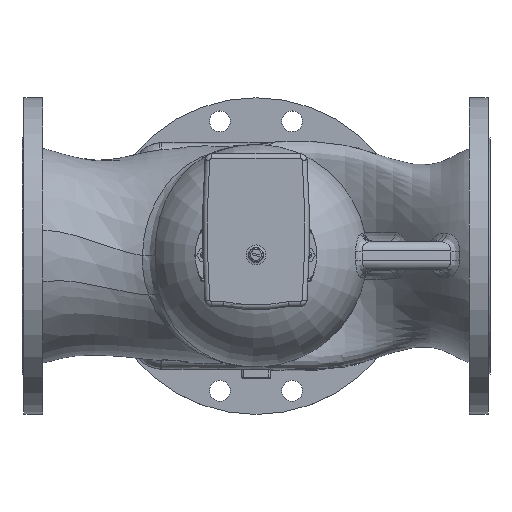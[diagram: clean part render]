
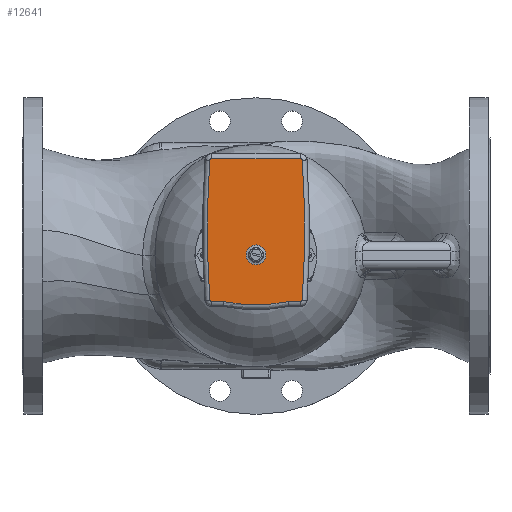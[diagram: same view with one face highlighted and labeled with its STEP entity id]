
A CAD part, top view. The second image highlights one B-rep face of the part: STEP entity #12641.
In plain terms, the highlighted planar face has unit normal (0, 0, 1).
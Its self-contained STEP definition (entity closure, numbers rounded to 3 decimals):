
#501=PLANE('',#17447);
#1121=LINE('',#56515,#1746);
#1122=LINE('',#56519,#1747);
#1123=LINE('',#56527,#1748);
#1746=VECTOR('',#20727,1000.);
#1747=VECTOR('',#20730,1000.);
#1748=VECTOR('',#20737,1000.);
#5915=ORIENTED_EDGE('',*,*,#7744,.T.);
#5916=ORIENTED_EDGE('',*,*,#7745,.T.);
#5917=ORIENTED_EDGE('',*,*,#7746,.T.);
#5918=ORIENTED_EDGE('',*,*,#7747,.T.);
#5919=ORIENTED_EDGE('',*,*,#7748,.T.);
#5920=ORIENTED_EDGE('',*,*,#7749,.T.);
#5921=ORIENTED_EDGE('',*,*,#7750,.T.);
#5922=ORIENTED_EDGE('',*,*,#7751,.T.);
#5923=ORIENTED_EDGE('',*,*,#7752,.T.);
#5924=ORIENTED_EDGE('',*,*,#7753,.T.);
#5925=ORIENTED_EDGE('',*,*,#7754,.T.);
#7744=EDGE_CURVE('',#8934,#8934,#9595,.T.);
#7745=EDGE_CURVE('',#8935,#8936,#9596,.F.);
#7746=EDGE_CURVE('',#8936,#8937,#1121,.F.);
#7747=EDGE_CURVE('',#8937,#8938,#9597,.F.);
#7748=EDGE_CURVE('',#8938,#8939,#1122,.F.);
#7749=EDGE_CURVE('',#8939,#8940,#9598,.F.);
#7750=EDGE_CURVE('',#8940,#8941,#9599,.F.);
#7751=EDGE_CURVE('',#8941,#8942,#9600,.F.);
#7752=EDGE_CURVE('',#8942,#8943,#1123,.F.);
#7753=EDGE_CURVE('',#8943,#8944,#9601,.F.);
#7754=EDGE_CURVE('',#8944,#8935,#9602,.F.);
#8934=VERTEX_POINT('',#56511);
#8935=VERTEX_POINT('',#56513);
#8936=VERTEX_POINT('',#56514);
#8937=VERTEX_POINT('',#56516);
#8938=VERTEX_POINT('',#56518);
#8939=VERTEX_POINT('',#56520);
#8940=VERTEX_POINT('',#56522);
#8941=VERTEX_POINT('',#56524);
#8942=VERTEX_POINT('',#56526);
#8943=VERTEX_POINT('',#56528);
#8944=VERTEX_POINT('',#56530);
#9595=CIRCLE('',#17448,10.521);
#9596=CIRCLE('',#17449,1.964);
#9597=CIRCLE('',#17450,169.964);
#9598=CIRCLE('',#17451,1.964);
#9599=CIRCLE('',#17452,1096.964);
#9600=CIRCLE('',#17453,1.964);
#9601=CIRCLE('',#17454,1.964);
#9602=CIRCLE('',#17455,1096.964);
#10649=EDGE_LOOP('',(#5915));
#10650=EDGE_LOOP('',(#5916,#5917,#5918,#5919,#5920,#5921,#5922,#5923,#5924,
#5925));
#11715=FACE_BOUND('',#10649,.T.);
#11716=FACE_BOUND('',#10650,.T.);
#12641=ADVANCED_FACE('',(#11715,#11716),#501,.F.);
#17447=AXIS2_PLACEMENT_3D('',#56509,#20721,#20722);
#17448=AXIS2_PLACEMENT_3D('',#56510,#20723,#20724);
#17449=AXIS2_PLACEMENT_3D('',#56512,#20725,#20726);
#17450=AXIS2_PLACEMENT_3D('',#56517,#20728,#20729);
#17451=AXIS2_PLACEMENT_3D('',#56521,#20731,#20732);
#17452=AXIS2_PLACEMENT_3D('',#56523,#20733,#20734);
#17453=AXIS2_PLACEMENT_3D('',#56525,#20735,#20736);
#17454=AXIS2_PLACEMENT_3D('',#56529,#20738,#20739);
#17455=AXIS2_PLACEMENT_3D('',#56531,#20740,#20741);
#20721=DIRECTION('',(0.,0.,-1.));
#20722=DIRECTION('',(-1.,0.,0.));
#20723=DIRECTION('',(0.,0.,-1.));
#20724=DIRECTION('',(-1.,0.,0.));
#20725=DIRECTION('',(0.,0.,-1.));
#20726=DIRECTION('',(-1.,0.,0.));
#20727=DIRECTION('',(0.,1.,0.));
#20728=DIRECTION('',(0.,0.,-1.));
#20729=DIRECTION('',(-1.,0.,0.));
#20730=DIRECTION('',(0.,1.,0.));
#20731=DIRECTION('',(0.,0.,-1.));
#20732=DIRECTION('',(-1.,0.,0.));
#20733=DIRECTION('',(0.,0.,-1.));
#20734=DIRECTION('',(-1.,0.,0.));
#20735=DIRECTION('',(0.,0.,-1.));
#20736=DIRECTION('',(-1.,0.,0.));
#20737=DIRECTION('',(0.,-1.,0.));
#20738=DIRECTION('',(0.,0.,-1.));
#20739=DIRECTION('',(-1.,0.,0.));
#20740=DIRECTION('',(0.,0.,-1.));
#20741=DIRECTION('',(-1.,0.,0.));
#56509=CARTESIAN_POINT('',(0.,0.,109.084));
#56510=CARTESIAN_POINT('',(0.,0.,109.084));
#56511=CARTESIAN_POINT('',(-10.521,0.,109.084));
#56512=CARTESIAN_POINT('',(-47.508,47.,109.084));
#56513=CARTESIAN_POINT('',(-47.64,48.96,109.084));
#56514=CARTESIAN_POINT('',(-49.472,47.,109.084));
#56515=CARTESIAN_POINT('',(-49.472,34.599,109.084));
#56516=CARTESIAN_POINT('',(-49.472,34.096,109.084));
#56517=CARTESIAN_POINT('',(117.037,0.,109.084));
#56518=CARTESIAN_POINT('',(-49.472,-34.096,109.084));
#56519=CARTESIAN_POINT('',(-49.472,-47.,109.084));
#56520=CARTESIAN_POINT('',(-49.472,-47.,109.084));
#56521=CARTESIAN_POINT('',(-47.508,-47.,109.084));
#56522=CARTESIAN_POINT('',(-47.64,-48.96,109.084));
#56523=CARTESIAN_POINT('',(26.246,1045.513,109.084));
#56524=CARTESIAN_POINT('',(100.132,-48.96,109.084));
#56525=CARTESIAN_POINT('',(100.,-47.,109.084));
#56526=CARTESIAN_POINT('',(101.964,-47.,109.084));
#56527=CARTESIAN_POINT('',(101.964,47.,109.084));
#56528=CARTESIAN_POINT('',(101.964,47.,109.084));
#56529=CARTESIAN_POINT('',(100.,47.,109.084));
#56530=CARTESIAN_POINT('',(100.132,48.96,109.084));
#56531=CARTESIAN_POINT('',(26.246,-1045.513,109.084));
